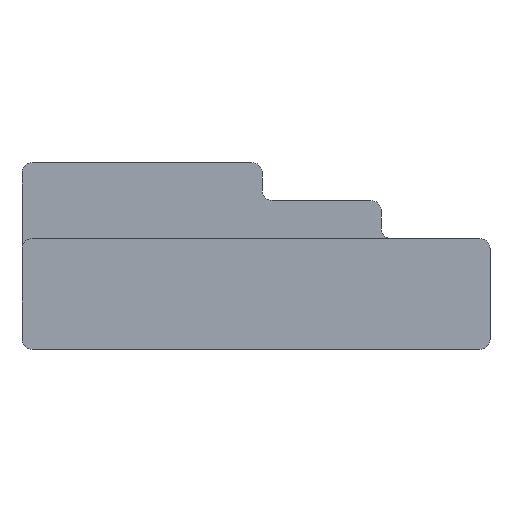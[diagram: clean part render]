
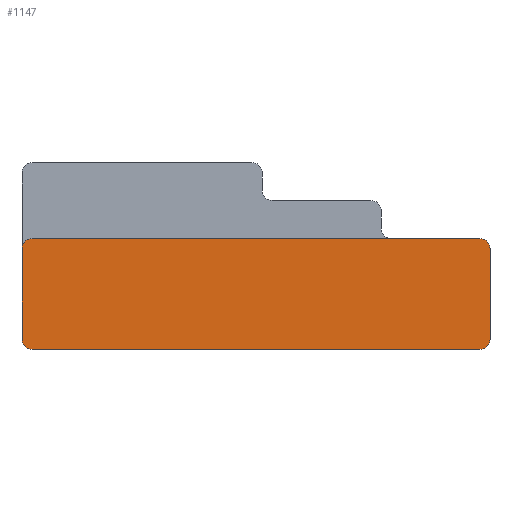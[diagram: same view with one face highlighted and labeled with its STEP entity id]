
A CAD part, front view. The second image highlights one B-rep face of the part: STEP entity #1147.
In plain terms, the highlighted planar face has unit normal (0, -1, 0).
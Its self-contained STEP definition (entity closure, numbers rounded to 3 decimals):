
#210=CARTESIAN_POINT('',(-10.9,-11.6,4.9));
#211=DIRECTION('',(0.,-1.,0.));
#212=DIRECTION('',(0.,0.,1.));
#213=AXIS2_PLACEMENT_3D('',#210,#211,#212);
#215=CARTESIAN_POINT('',(10.9,-11.6,4.9));
#216=DIRECTION('',(0.,-1.,0.));
#217=DIRECTION('',(1.,0.,0.));
#218=AXIS2_PLACEMENT_3D('',#215,#216,#217);
#220=CARTESIAN_POINT('',(10.9,-11.6,0.5));
#221=DIRECTION('',(0.,-1.,0.));
#222=DIRECTION('',(0.,0.,-1.));
#223=AXIS2_PLACEMENT_3D('',#220,#221,#222);
#225=CARTESIAN_POINT('',(-10.9,-11.6,0.5));
#226=DIRECTION('',(0.,-1.,0.));
#227=DIRECTION('',(-1.,0.,0.));
#228=AXIS2_PLACEMENT_3D('',#225,#226,#227);
#230=DIRECTION('',(0.,0.,1.));
#231=VECTOR('',#230,4.4);
#232=CARTESIAN_POINT('',(-11.4,-11.6,0.5));
#233=LINE('',#232,#231);
#318=DIRECTION('',(1.,0.,0.));
#319=VECTOR('',#318,21.8);
#320=CARTESIAN_POINT('',(-10.9,-11.6,5.4));
#321=LINE('',#320,#319);
#510=DIRECTION('',(1.,0.,0.));
#511=VECTOR('',#510,21.8);
#512=CARTESIAN_POINT('',(-10.9,-11.6,0.));
#513=LINE('',#512,#511);
#580=DIRECTION('',(0.,0.,1.));
#581=VECTOR('',#580,4.4);
#582=CARTESIAN_POINT('',(11.4,-11.6,0.5));
#583=LINE('',#582,#581);
#744=CARTESIAN_POINT('',(-10.9,-11.6,5.4));
#745=CARTESIAN_POINT('',(-11.4,-11.6,4.9));
#746=VERTEX_POINT('',#744);
#747=VERTEX_POINT('',#745);
#772=CARTESIAN_POINT('',(11.4,-11.6,4.9));
#773=VERTEX_POINT('',#772);
#774=CARTESIAN_POINT('',(10.9,-11.6,5.4));
#775=VERTEX_POINT('',#774);
#776=CARTESIAN_POINT('',(10.9,-11.6,0.));
#777=CARTESIAN_POINT('',(11.4,-11.6,0.5));
#778=VERTEX_POINT('',#776);
#779=VERTEX_POINT('',#777);
#788=CARTESIAN_POINT('',(-11.4,-11.6,0.5));
#789=VERTEX_POINT('',#788);
#790=CARTESIAN_POINT('',(-10.9,-11.6,0.));
#791=VERTEX_POINT('',#790);
#1125=CARTESIAN_POINT('',(-11.4,-11.6,0.));
#1126=DIRECTION('',(0.,-1.,0.));
#1127=DIRECTION('',(1.,0.,0.));
#1128=AXIS2_PLACEMENT_3D('',#1125,#1126,#1127);
#1129=PLANE('',#1128);
#1131=ORIENTED_EDGE('',*,*,#1130,.F.);
#1133=ORIENTED_EDGE('',*,*,#1132,.T.);
#1135=ORIENTED_EDGE('',*,*,#1134,.F.);
#1137=ORIENTED_EDGE('',*,*,#1136,.F.);
#1138=ORIENTED_EDGE('',*,*,#1115,.F.);
#1140=ORIENTED_EDGE('',*,*,#1139,.F.);
#1142=ORIENTED_EDGE('',*,*,#1141,.F.);
#1144=ORIENTED_EDGE('',*,*,#1143,.T.);
#1145=EDGE_LOOP('',(#1131,#1133,#1135,#1137,#1138,#1140,#1142,#1144));
#1146=FACE_OUTER_BOUND('',#1145,.F.);
#1147=ADVANCED_FACE('',(#1146),#1129,.T.);
#214=CIRCLE('',#213,0.5);
#219=CIRCLE('',#218,0.5);
#224=CIRCLE('',#223,0.5);
#229=CIRCLE('',#228,0.5);
#1115=EDGE_CURVE('',#778,#779,#224,.T.);
#1130=EDGE_CURVE('',#746,#747,#214,.T.);
#1132=EDGE_CURVE('',#746,#775,#321,.T.);
#1134=EDGE_CURVE('',#773,#775,#219,.T.);
#1136=EDGE_CURVE('',#779,#773,#583,.T.);
#1139=EDGE_CURVE('',#791,#778,#513,.T.);
#1141=EDGE_CURVE('',#789,#791,#229,.T.);
#1143=EDGE_CURVE('',#789,#747,#233,.T.);
